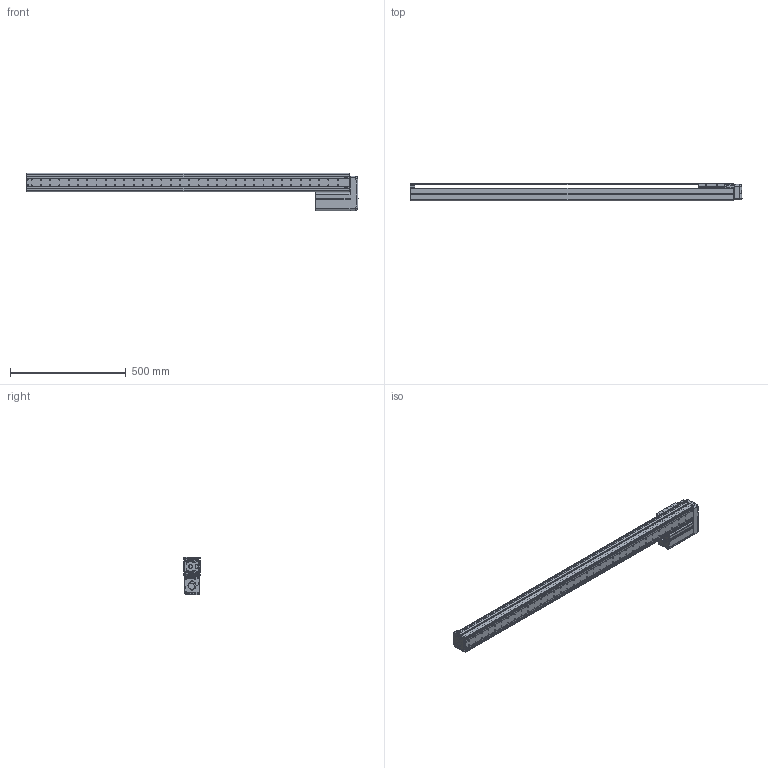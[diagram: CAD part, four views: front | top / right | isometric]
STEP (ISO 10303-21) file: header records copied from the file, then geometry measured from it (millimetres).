
FILE_DESCRIPTION((''),'2;1');
FILE_NAME('BE10E-UL-M_N-C0_IGS_PRT','2017-06-17T',(' '),(''),'PRO/ENGINEER BY PARAMETRIC TECHNOLOGY CORPORATION, 2015030','PRO/ENGINEER BY PARAMETRIC TECHNOLOGY CORPORATION, 2015030','');
FILE_SCHEMA(('CONFIG_CONTROL_DESIGN'));
Length unit declared in the file: millimetre
Products named in the file (1): BE10E-UL-M_N-C0_IGS_PRT
Bounding box: 1431.42 x 75 x 160 mm (x, y, z)
Volume: 1881663 mm3; surface area: 1266089.1 mm2
Topology: 2 solids, 147 shells, 1952 faces, 5285 edges, 3461 vertices
Faces by surface type: cylinder 985, plane 739, cone 81, torus 69, sphere 44, bspline 34
Entity records: 64179 total; most frequent: CARTESIAN_POINT 13727, DIRECTION 10946, ORIENTED_EDGE 9928, EDGE_CURVE 5245, AXIS2_PLACEMENT_3D 4147, VERTEX_POINT 3461, VECTOR 2652, LINE 2652
